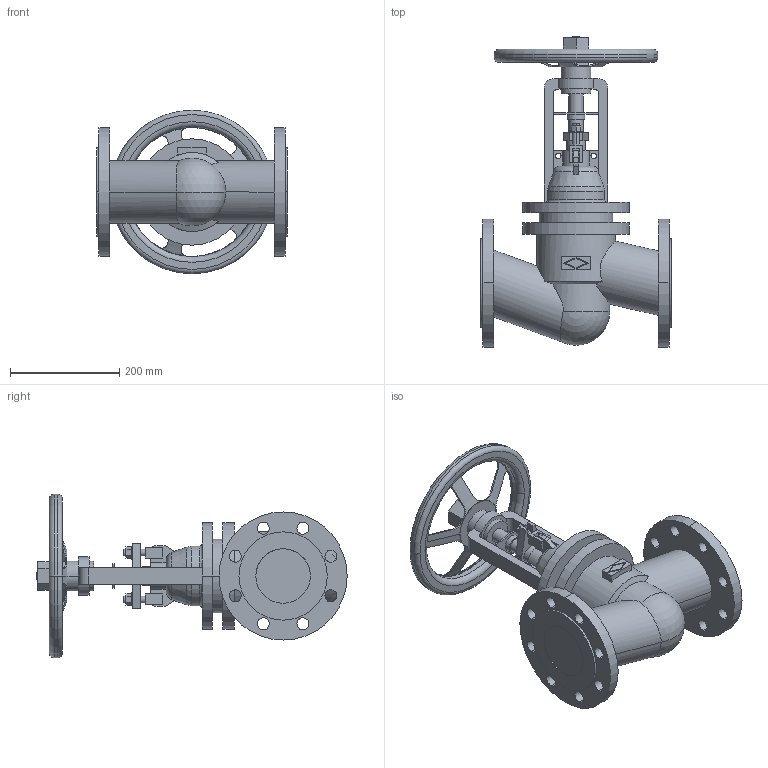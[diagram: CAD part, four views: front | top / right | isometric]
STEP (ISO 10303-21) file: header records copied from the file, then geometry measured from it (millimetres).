
FILE_DESCRIPTION(('OneSpaceDesigner STEP Export'),'2;1');
FILE_NAME('c000003732.stp','2009-06-15T12:38:18',(''),(''),'OneSpace Designer STEP processor for AP214 (Solid Model)','OneSpace Modeling 15.50B 03-Nov-2007 (C) CoCreate Software GmbH','');
FILE_SCHEMA(('AUTOMOTIVE_DESIGN { 1 0 10303 214 1 1 1 1 }'));
Length unit declared in the file: millimetre
Products named in the file (1): 1
Bounding box: 350 x 569.2 x 300 mm (x, y, z)
Volume: 9671472.7 mm3; surface area: 678448.9 mm2
Topology: 1 solids, 1 shells, 331 faces, 908 edges, 598 vertices
Faces by surface type: cylinder 150, plane 145, torus 22, cone 12, sphere 2
Entity records: 13668 total; most frequent: CARTESIAN_POINT 3141, ORIENTED_EDGE 1812, DIRECTION 1401, EDGE_CURVE 906, VERTEX_POINT 598, AXIS2_PLACEMENT_3D 485, VECTOR 431, LINE 431
